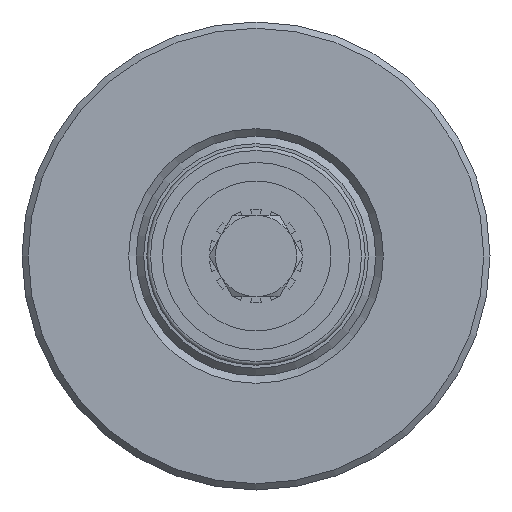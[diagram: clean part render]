
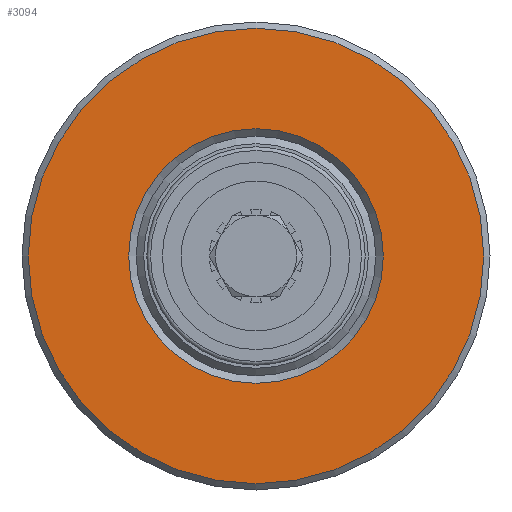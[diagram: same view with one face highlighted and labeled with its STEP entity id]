
A CAD part, left-side view. The second image highlights one B-rep face of the part: STEP entity #3094.
In plain terms, the highlighted planar face has unit normal (-1, 0, 0).
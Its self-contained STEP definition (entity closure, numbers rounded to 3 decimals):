
#497=PLANE('',#3320);
#611=FACE_BOUND('',#905,.T.);
#698=FACE_OUTER_BOUND('',#904,.T.);
#904=EDGE_LOOP('',(#2158));
#905=EDGE_LOOP('',(#2159));
#1160=CIRCLE('',#3319,20.4);
#1161=CIRCLE('',#3321,36.5);
#1379=VERTEX_POINT('',#4834);
#1380=VERTEX_POINT('',#4837);
#1695=EDGE_CURVE('',#1379,#1379,#1160,.T.);
#1696=EDGE_CURVE('',#1380,#1380,#1161,.T.);
#2158=ORIENTED_EDGE('',*,*,#1696,.F.);
#2159=ORIENTED_EDGE('',*,*,#1695,.T.);
#3094=ADVANCED_FACE('',(#698,#611),#497,.T.);
#3319=AXIS2_PLACEMENT_3D('',#4835,#3798,#3799);
#3320=AXIS2_PLACEMENT_3D('',#4836,#3800,#3801);
#3321=AXIS2_PLACEMENT_3D('',#4838,#3802,#3803);
#3798=DIRECTION('center_axis',(1.,0.,0.));
#3799=DIRECTION('ref_axis',(0.,1.,0.));
#3800=DIRECTION('center_axis',(-1.,0.,0.));
#3801=DIRECTION('ref_axis',(0.,0.,1.));
#3802=DIRECTION('center_axis',(1.,0.,0.));
#3803=DIRECTION('ref_axis',(0.,1.,0.));
#4834=CARTESIAN_POINT('',(-14.,20.4,0.));
#4835=CARTESIAN_POINT('Origin',(-14.,0.,0.));
#4836=CARTESIAN_POINT('Origin',(-14.,28.45,0.));
#4837=CARTESIAN_POINT('',(-14.,36.5,0.));
#4838=CARTESIAN_POINT('Origin',(-14.,0.,0.));
